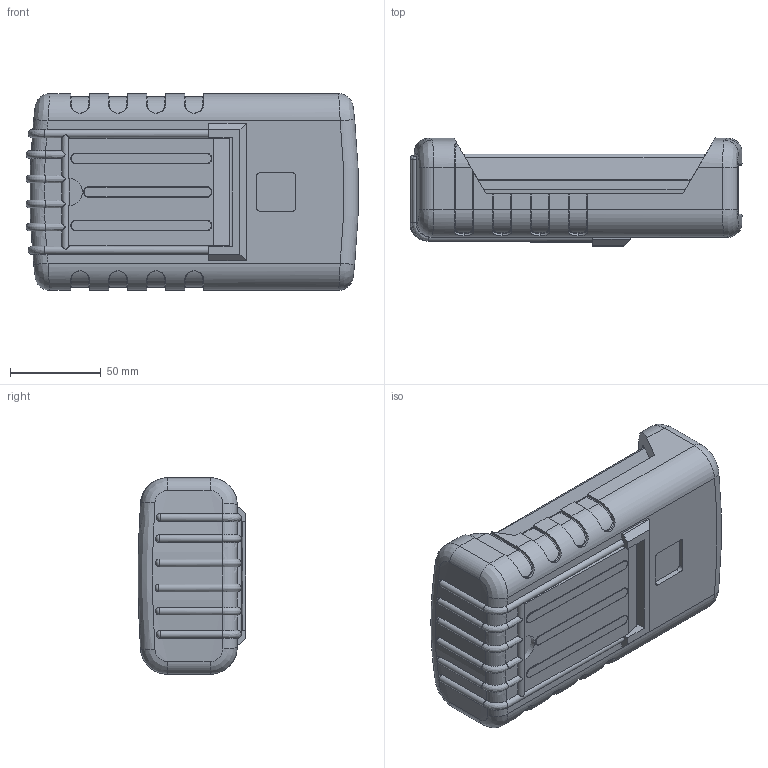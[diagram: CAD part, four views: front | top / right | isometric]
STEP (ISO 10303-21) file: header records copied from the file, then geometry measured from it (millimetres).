
FILE_DESCRIPTION (( 'STEP AP214' ), '1' );
FILE_NAME ('90-43-29V-E-R-BO.STEP', '2020-10-05T01:30:17', ( 'Rudy' ), ( '' ), 'SwSTEP 2.0', 'SolidWorks 2014', '' );
FILE_SCHEMA (( 'AUTOMOTIVE_DESIGN' ));
Length unit declared in the file: millimetre
Products named in the file (9): 90-Top Recess; 90 expander; 29V door; 90-29V; 90-43-29V-E-R-BO; 90 RBE Boot; RE 90 stand; 90 PCB 29V-4AA
Assembly tree (8 placements, depth 3):
  90-43-29V-E-R-BO
    90-29V
    29V door
    90 expander
    90-Top Recess
    90 PCB 29V-4AA
    90 RBE Boot
      90 RBE Boot
      RE 90 stand
Bounding box: 183.26 x 59.56 x 108.46 mm (x, y, z)
Volume: 405210.6 mm3; surface area: 217112.4 mm2
Topology: 7 solids, 7 shells, 1115 faces, 2998 edges, 1918 vertices
Faces by surface type: plane 616, cylinder 299, bspline 76, torus 57, cone 52, sphere 15
Entity records: 41651 total; most frequent: CARTESIAN_POINT 13789, ORIENTED_EDGE 5952, DIRECTION 5521, EDGE_CURVE 2976, VERTEX_POINT 1910, VECTOR 1887, LINE 1887, AXIS2_PLACEMENT_3D 1817
